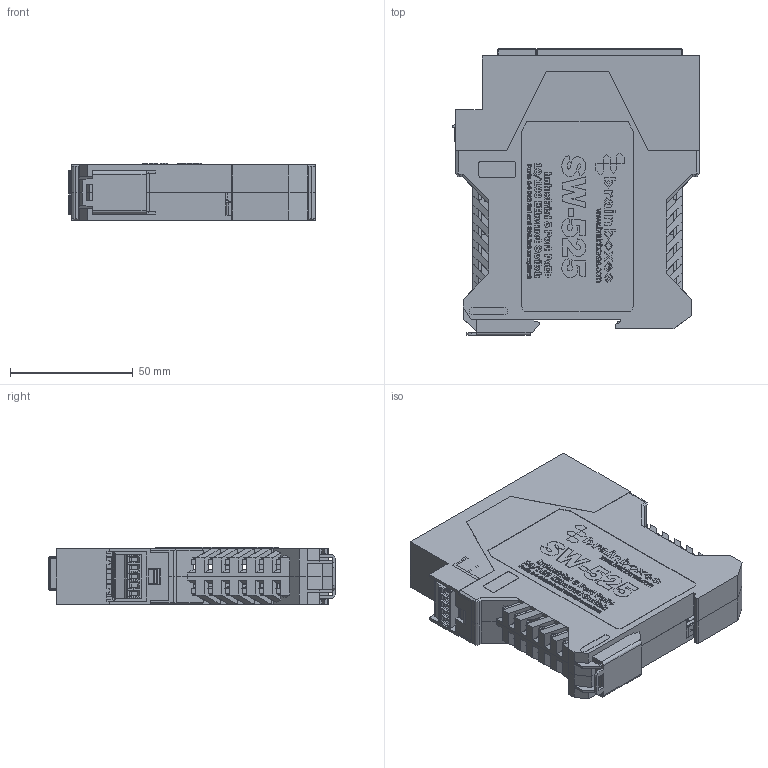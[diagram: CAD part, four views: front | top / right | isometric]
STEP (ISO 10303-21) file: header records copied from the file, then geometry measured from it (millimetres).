
FILE_DESCRIPTION(('FreeCAD Model'),'2;1');
FILE_NAME('Open CASCADE Shape Model','2023-03-16T16:18:00',('Author'),( ''),'Open CASCADE STEP processor 7.6','FreeCAD','Unknown');
FILE_SCHEMA(('AUTOMOTIVE_DESIGN { 1 0 10303 214 1 1 1 1 }'));
Products named in the file (1): For SW-525 Colour
Bounding box: 100.21 x 116.59 x 23.2 mm (x, y, z)
Volume: 86429.9 mm3; surface area: 121324.2 mm2
Topology: 267 solids, 285 shells, 13926 faces, 39888 edges, 26087 vertices
Faces by surface type: plane 11895, cylinder 1268, bspline 585, torus 58, cone 52, extrusion 48, sphere 16, revolution 4
Full cylindrical faces by diameter (mm): 0.5 x1, 3.81 x1
Entity records: 556266 total; most frequent: CARTESIAN_POINT 92624, ORIENTED_EDGE 79752, DIRECTION 68904, EDGE_CURVE 39876, VECTOR 35650, LINE 35602, VERTEX_POINT 26087, AXIS2_PLACEMENT_3D 16625
